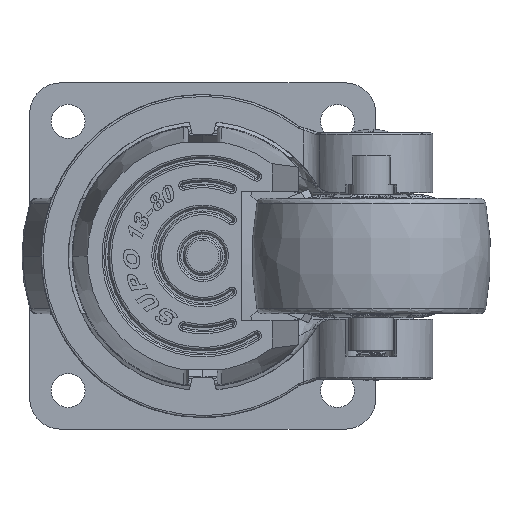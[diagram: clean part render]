
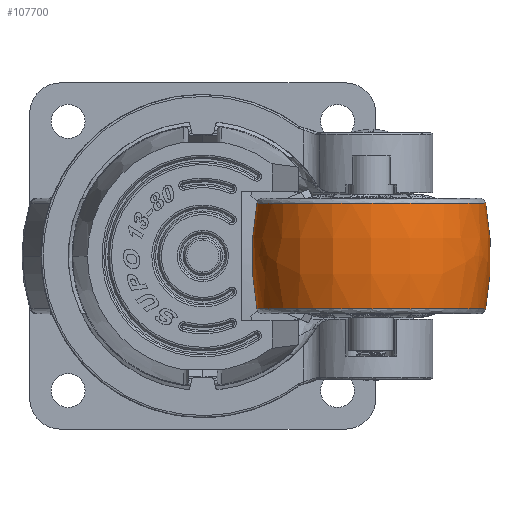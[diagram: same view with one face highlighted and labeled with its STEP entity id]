
A CAD part, front view. The second image highlights one B-rep face of the part: STEP entity #107700.
In plain terms, the highlighted free-form (B-spline) face has degree [3, 3] with [4, 4] control points.
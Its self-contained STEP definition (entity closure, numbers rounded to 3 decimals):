
#1095 = DIRECTION ( 'NONE',  ( 1., -0.006, 0. ) ) ;
#2338 = ORIENTED_EDGE ( 'NONE', *, *, #34327, .T. ) ;
#2655 = CARTESIAN_POINT ( 'NONE',  ( 14.063, -67.15, -13.773 ) ) ;
#10982 = DIRECTION ( 'NONE',  ( 0., 0., -1. ) ) ;
#13550 = CARTESIAN_POINT ( 'NONE',  ( 73.537, -67.15, 13.773 ) ) ;
#14353 = CARTESIAN_POINT ( 'NONE',  ( 14.063, -67.15, 13.773 ) ) ;
#15522 = VERTEX_POINT ( 'NONE', #26240 ) ;
#16097 = AXIS2_PLACEMENT_3D ( 'NONE', #52706, #81902, #44059 ) ;
#26240 = CARTESIAN_POINT ( 'NONE',  ( 73.537, -67.15, -13.773 ) ) ;
#26956 = CARTESIAN_POINT ( 'NONE',  ( 73.537, -126.625, -13.773 ) ) ;
#27531 = AXIS2_PLACEMENT_3D ( 'NONE', #73880, #10982, #98377 ) ;
#28590 = CARTESIAN_POINT ( 'NONE',  ( 73.537, -126.625, 13.773 ) ) ;
#30423 = DIRECTION ( 'NONE',  ( 0., 0., -1. ) ) ;
#30430 =( BOUNDED_SURFACE ( )  B_SPLINE_SURFACE ( 3, 3, ( 
 ( #13550, #28590, #78938, #14353 ),
 ( #103394, #79752, #38637, #39465 ),
 ( #130350, #77262, #117762, #63793 ),
 ( #128720, #26956, #131189, #65454 ) ),
 .UNSPECIFIED., .F., .F., .T. ) 
 B_SPLINE_SURFACE_WITH_KNOTS ( ( 4, 4 ),
 ( 4, 4 ),
 ( 0., 1. ),
 ( 0., 1. ),
 .UNSPECIFIED. ) 
 GEOMETRIC_REPRESENTATION_ITEM ( )  RATIONAL_B_SPLINE_SURFACE ( (
 ( 1., 0.333, 0.333, 1.),
 ( 0.989, 0.33, 0.33, 0.989),
 ( 0.989, 0.33, 0.33, 0.989),
 ( 1., 0.333, 0.333, 1.) ) ) 
 REPRESENTATION_ITEM ( '' )  SURFACE ( )  );
#34327 = EDGE_CURVE ( 'NONE', #136583, #140597, #39871, .T. ) ;
#38637 = CARTESIAN_POINT ( 'NONE',  ( 12.374, -130.001, 4.642 ) ) ;
#39465 = CARTESIAN_POINT ( 'NONE',  ( 12.374, -67.15, 4.642 ) ) ;
#39598 = EDGE_CURVE ( 'NONE', #130133, #136583, #56143, .T. ) ;
#39871 = CIRCLE ( 'NONE', #163362, 29.737 ) ;
#40155 = AXIS2_PLACEMENT_3D ( 'NONE', #78054, #131146, #120182 ) ;
#44059 = DIRECTION ( 'NONE',  ( -0.982, 0., 0.189 ) ) ;
#52706 = CARTESIAN_POINT ( 'NONE',  ( 88.55, -67.15, 0. ) ) ;
#56143 = CIRCLE ( 'NONE', #16097, 75.75 ) ;
#56296 = ORIENTED_EDGE ( 'NONE', *, *, #59124, .F. ) ;
#57532 = EDGE_LOOP ( 'NONE', ( #143301, #71407, #81977, #2338, #160360, #56296 ) ) ;
#59124 = EDGE_CURVE ( 'NONE', #158538, #15522, #147579, .T. ) ;
#63793 = CARTESIAN_POINT ( 'NONE',  ( 12.374, -67.15, -4.642 ) ) ;
#65454 = CARTESIAN_POINT ( 'NONE',  ( 14.063, -67.15, -13.773 ) ) ;
#65706 = AXIS2_PLACEMENT_3D ( 'NONE', #103577, #30423, #1095 ) ;
#65737 = CARTESIAN_POINT ( 'NONE',  ( 43.8, -67.15, -13.773 ) ) ;
#71407 = ORIENTED_EDGE ( 'NONE', *, *, #128830, .T. ) ;
#73880 = CARTESIAN_POINT ( 'NONE',  ( 43.8, -67.15, 13.773 ) ) ;
#77262 = CARTESIAN_POINT ( 'NONE',  ( 75.226, -130.001, -4.642 ) ) ;
#78054 = CARTESIAN_POINT ( 'NONE',  ( -0.95, -67.15, 0. ) ) ;
#78938 = CARTESIAN_POINT ( 'NONE',  ( 14.063, -126.625, 13.773 ) ) ;
#79752 = CARTESIAN_POINT ( 'NONE',  ( 75.226, -130.001, 4.642 ) ) ;
#80751 = CARTESIAN_POINT ( 'NONE',  ( 73.537, -67.15, 13.773 ) ) ;
#81902 = DIRECTION ( 'NONE',  ( 0., -1., 0. ) ) ;
#81977 = ORIENTED_EDGE ( 'NONE', *, *, #39598, .T. ) ;
#93342 = VERTEX_POINT ( 'NONE', #121027 ) ;
#93537 = DIRECTION ( 'NONE',  ( 1., -0.006, 0. ) ) ;
#94386 = DIRECTION ( 'NONE',  ( 0., 0., 1. ) ) ;
#98377 = DIRECTION ( 'NONE',  ( 1., -0.006, 0. ) ) ;
#98935 = AXIS2_PLACEMENT_3D ( 'NONE', #65737, #94386, #93537 ) ;
#99899 = CARTESIAN_POINT ( 'NONE',  ( 14.063, -67.15, 13.773 ) ) ;
#99936 = CIRCLE ( 'NONE', #27531, 29.737 ) ;
#103394 = CARTESIAN_POINT ( 'NONE',  ( 75.226, -67.15, 4.642 ) ) ;
#103577 = CARTESIAN_POINT ( 'NONE',  ( 43.8, -67.15, 13.773 ) ) ;
#107700 = ADVANCED_FACE ( 'NONE', ( #115273 ), #30430, .F. ) ;
#115273 = FACE_OUTER_BOUND ( 'NONE', #57532, .T. ) ;
#116087 = DIRECTION ( 'NONE',  ( 1., -0.006, 0. ) ) ;
#117762 = CARTESIAN_POINT ( 'NONE',  ( 12.374, -130.001, -4.642 ) ) ;
#120182 = DIRECTION ( 'NONE',  ( 0.982, 0., 0.189 ) ) ;
#121027 = CARTESIAN_POINT ( 'NONE',  ( 73.537, -67.339, 13.773 ) ) ;
#122305 = CIRCLE ( 'NONE', #65706, 29.737 ) ;
#125901 = EDGE_CURVE ( 'NONE', #140597, #15522, #141937, .T. ) ;
#128709 = DIRECTION ( 'NONE',  ( 0., 0., 1. ) ) ;
#128720 = CARTESIAN_POINT ( 'NONE',  ( 73.537, -67.15, -13.773 ) ) ;
#128830 = EDGE_CURVE ( 'NONE', #93342, #130133, #99936, .T. ) ;
#130133 = VERTEX_POINT ( 'NONE', #99899 ) ;
#130350 = CARTESIAN_POINT ( 'NONE',  ( 75.226, -67.15, -4.642 ) ) ;
#131146 = DIRECTION ( 'NONE',  ( 0., 1., 0. ) ) ;
#131189 = CARTESIAN_POINT ( 'NONE',  ( 14.063, -126.625, -13.773 ) ) ;
#136583 = VERTEX_POINT ( 'NONE', #2655 ) ;
#140597 = VERTEX_POINT ( 'NONE', #160279 ) ;
#141937 = CIRCLE ( 'NONE', #98935, 29.737 ) ;
#143301 = ORIENTED_EDGE ( 'NONE', *, *, #154105, .T. ) ;
#147579 = CIRCLE ( 'NONE', #40155, 75.75 ) ;
#153780 = CARTESIAN_POINT ( 'NONE',  ( 43.8, -67.15, -13.773 ) ) ;
#154105 = EDGE_CURVE ( 'NONE', #158538, #93342, #122305, .T. ) ;
#158538 = VERTEX_POINT ( 'NONE', #80751 ) ;
#160279 = CARTESIAN_POINT ( 'NONE',  ( 73.537, -67.339, -13.773 ) ) ;
#160360 = ORIENTED_EDGE ( 'NONE', *, *, #125901, .T. ) ;
#163362 = AXIS2_PLACEMENT_3D ( 'NONE', #153780, #128709, #116087 ) ;
